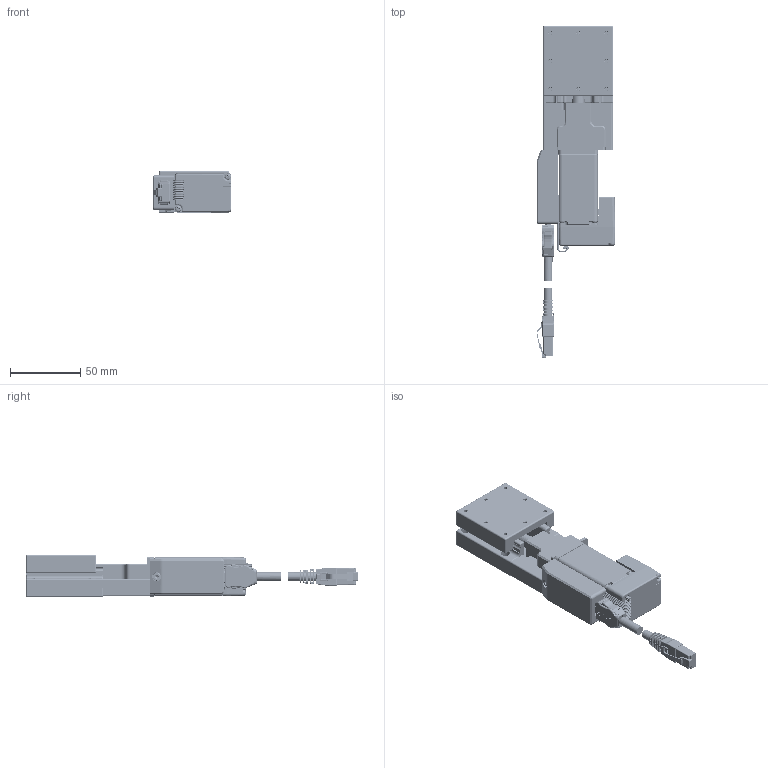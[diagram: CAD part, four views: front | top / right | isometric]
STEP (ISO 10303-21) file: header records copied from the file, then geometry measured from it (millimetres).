
FILE_DESCRIPTION(/* description */ (''),/* implementation_level */ '2;1');
FILE_NAME(/* name */ 'CXS5020-EzI-SERVO ALL-28M',/* time_stamp */ '2022-08-24T21:03:52+02:00',/* author */ (''),/* organization */ (''),/* preprocessor_version */ 'ST-DEVELOPER v16.7',/* originating_system */ 'Solid Edge',/* authorisation */ 'Unknown');
FILE_SCHEMA (('AUTOMOTIVE_DESIGN {1 0 10303 214 3 1 1}'));
Products named in the file (28): CXS5020-EzI-SERVO ALL-28M; CXS5020; Group1^CXS5020-S 模糊化; Group2^CXS5020-S 模糊化; 09451819000_100744258MOD000C; 09451511525_100534264MOD000A; Motorflansch-ix-001; ISO 4762_M2,5x5_8.8; ISO 4762_M3x10_8.8; EzI-SERVO ALL-28L; M16-EC-028-02-R00; M16-EC-028-01-R00; PCB-1-04; PCB-2-04; M1L-EC-028-03-R00; pan cross head_ks_KS 1023 PC- M2.5 x 8-N; BM12B-GHS-TBT; Condensador 10_17.5; 20PS-JMCS-G-1B-TF(N); 20R-JMCS-G-B-TF(NSA); M1L-MO-028-03-R01; JST-GHR-12V-S_with_terminals; JST_GHR-CONTACT; JST_GHR-12V-S; Gehäuse-ix-001; Platine-ix-001; PCB ix Industrial-001; 09452819001
Assembly tree (39 placements, depth 4):
  CXS5020-EzI-SERVO ALL-28M
    CXS5020
      Group1^CXS5020-S 模糊化
      Group2^CXS5020-S 模糊化
    09451819000_100744258MOD000C
    09451511525_100534264MOD000A
    Motorflansch-ix-001
    ISO 4762_M2,5x5_8.8
    ISO 4762_M3x10_8.8
    EzI-SERVO ALL-28L
      M16-EC-028-02-R00
      M16-EC-028-01-R00
      PCB-1-04
      PCB-2-04
      M1L-EC-028-03-R00
      pan cross head_ks_KS 1023 PC- M2.5 x 8-N  x2
      BM12B-GHS-TBT
      Condensador 10_17.5
      20PS-JMCS-G-1B-TF(N)
      20R-JMCS-G-B-TF(NSA)
      M1L-MO-028-03-R01
      JST-GHR-12V-S_with_terminals
        JST_GHR-CONTACT  x12
        JST_GHR-12V-S
    Gehäuse-ix-001
    Platine-ix-001
      PCB ix Industrial-001
      09452819001
Bounding box: 56.23 x 236.43 x 30 mm (x, y, z)
Volume: 147569.7 mm3; surface area: 77474.1 mm2
Topology: 35 solids, 37 shells, 8561 faces, 23802 edges, 15418 vertices
Faces by surface type: plane 5778, cylinder 2028, bspline 409, torus 158, cone 120, sphere 68
Full cylindrical faces by diameter (mm): 0.279 x1, 0.4 x2, 0.5 x14, 0.7 x3, 0.9 x54, 1 x36, 1.4 x54, 1.45 x2, 1.75 x2, 2.013 x2, 2.05 x6, 2.459 x1, 2.5 x11, 2.8 x4, 3 x2, 3.2 x1, 3.4 x4, 3.5 x1, 3.8 x1, 4.68 x1, 5 x3, 5.5 x2, 6 x2, 6.2 x1, 6.3 x1, 6.4 x1, 6.5 x4, 8 x2, 9.5 x1, 10 x1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
Entity records: 281417 total; most frequent: CARTESIAN_POINT 67796, ORIENTED_EDGE 39276, DIRECTION 34856, EDGE_CURVE 19668, LINE 15638, VECTOR 15638, VERTEX_POINT 13014, AXIS2_PLACEMENT_3D 9609
